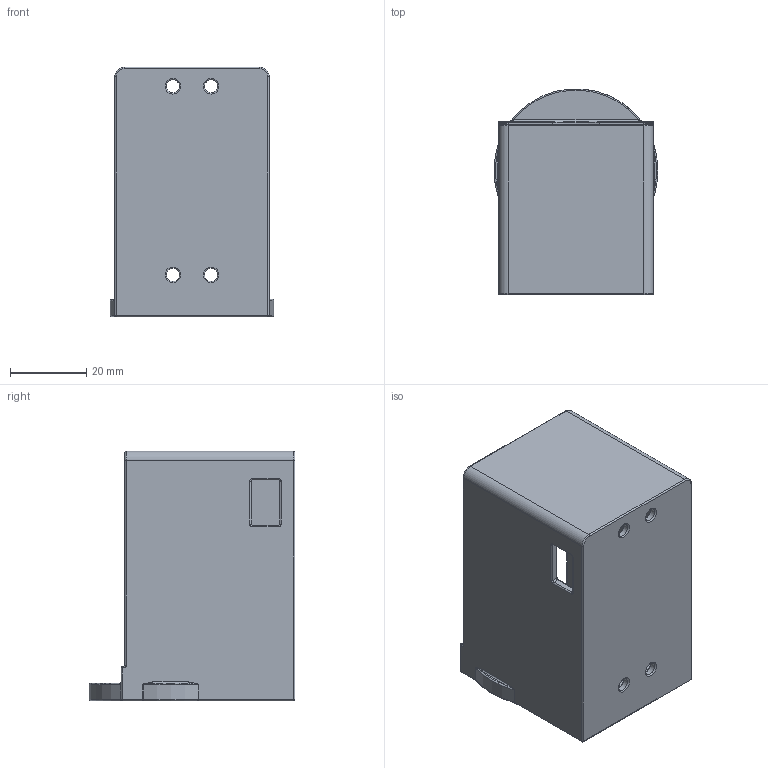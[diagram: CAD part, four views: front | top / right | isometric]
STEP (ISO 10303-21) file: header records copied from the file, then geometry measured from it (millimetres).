
FILE_DESCRIPTION(('Open CASCADE Model'),'2;1');
FILE_NAME('Open CASCADE Shape Model','2026-11-19T06:41:55',('Author'),( 'Open CASCADE'),'Open CASCADE STEP processor 8.0','Open CASCADE 8.0' ,'Unknown');
FILE_SCHEMA(('AUTOMOTIVE_DESIGN { 1 0 10303 214 1 1 1 1 }'));
Length unit declared in the file: millimetre
Products named in the file (1): Open CASCADE STEP translator 8.0 37
Bounding box: 43 x 54.03 x 65.5 mm (x, y, z)
Volume: 32302.5 mm3; surface area: 23308.9 mm2
Topology: 1 solids, 1 shells, 452 faces, 1043 edges, 534 vertices
Faces by surface type: cylinder 155, torus 148, sphere 62, bspline 44, plane 43
Full cylindrical faces by diameter (mm): 3.4 x4, 4.8 x1
Entity records: 27646 total; most frequent: CARTESIAN_POINT 8745, DIRECTION 3460, ORIENTED_EDGE 1962, PCURVE 1962, DEFINITIONAL_REPRESENTATION 1962, LINE 1311, VECTOR 1311, AXIS2_PLACEMENT_3D 1033
